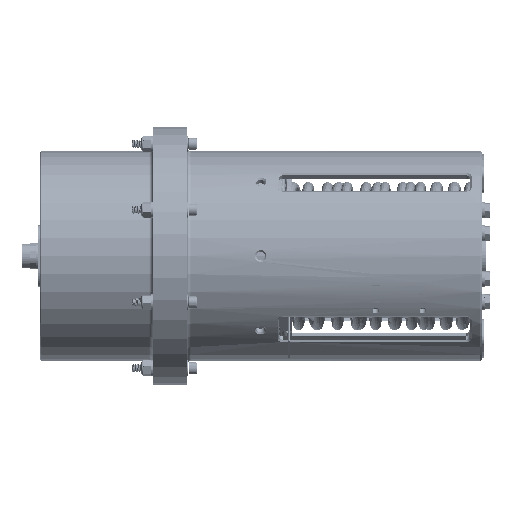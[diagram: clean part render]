
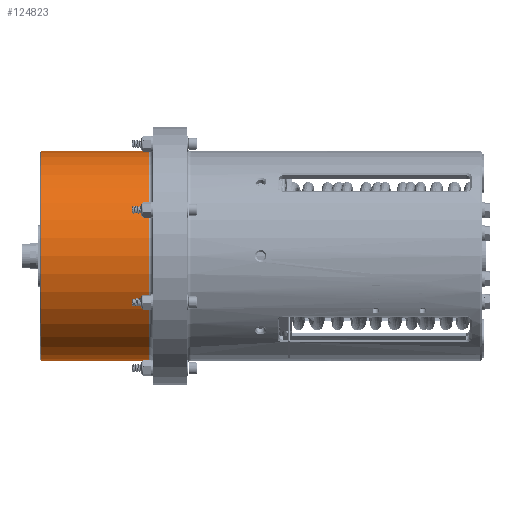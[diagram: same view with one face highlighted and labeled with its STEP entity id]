
A CAD part, left-side view. The second image highlights one B-rep face of the part: STEP entity #124823.
In plain terms, the highlighted cylindrical face has radius 82.55 mm (diameter 165.1 mm), a partial arc.
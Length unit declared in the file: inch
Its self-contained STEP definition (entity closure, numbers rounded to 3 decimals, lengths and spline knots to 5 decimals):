
#4583 = VECTOR ( 'NONE', #139257, 39.37008 ) ;
#12011 = ORIENTED_EDGE ( 'NONE', *, *, #42678, .F. ) ;
#31038 = CARTESIAN_POINT ( 'NONE',  ( 0., -0.07, 0. ) ) ;
#32309 = DIRECTION ( 'NONE',  ( 0., 0., -1. ) ) ;
#34116 = CARTESIAN_POINT ( 'NONE',  ( 0., 0.555, 3.25 ) ) ;
#41671 = CARTESIAN_POINT ( 'NONE',  ( 0., 3.88, -3.25 ) ) ;
#42678 = EDGE_CURVE ( 'NONE', #120448, #80251, #58076, .T. ) ;
#53491 = DIRECTION ( 'NONE',  ( 0., -1., 0. ) ) ;
#58076 = LINE ( 'NONE', #177364, #4583 ) ;
#59200 = ORIENTED_EDGE ( 'NONE', *, *, #103637, .T. ) ;
#71254 = CARTESIAN_POINT ( 'NONE',  ( 0., -0.07, -3.25 ) ) ;
#77533 = CIRCLE ( 'NONE', #81508, 3.25 ) ;
#80251 = VERTEX_POINT ( 'NONE', #34116 ) ;
#81508 = AXIS2_PLACEMENT_3D ( 'NONE', #177715, #116787, #98970 ) ;
#92000 = CYLINDRICAL_SURFACE ( 'NONE', #134191, 3.25 ) ;
#92983 = VERTEX_POINT ( 'NONE', #155170 ) ;
#98970 = DIRECTION ( 'NONE',  ( 0., 0., 1. ) ) ;
#103637 = EDGE_CURVE ( 'NONE', #246156, #92983, #128394, .T. ) ;
#109819 = ORIENTED_EDGE ( 'NONE', *, *, #251097, .T. ) ;
#110676 = EDGE_CURVE ( 'NONE', #120448, #246156, #77533, .T. ) ;
#116787 = DIRECTION ( 'NONE',  ( 0., -1., 0. ) ) ;
#120448 = VERTEX_POINT ( 'NONE', #231269 ) ;
#124823 = ADVANCED_FACE ( 'NONE', ( #186024 ), #92000, .T. ) ;
#128394 = LINE ( 'NONE', #71254, #238755 ) ;
#134191 = AXIS2_PLACEMENT_3D ( 'NONE', #31038, #210115, #32309 ) ;
#139257 = DIRECTION ( 'NONE',  ( 0., -1., 0. ) ) ;
#139337 = CARTESIAN_POINT ( 'NONE',  ( 0., 0.555, 0. ) ) ;
#155170 = CARTESIAN_POINT ( 'NONE',  ( 0., 0.555, -3.25 ) ) ;
#173043 = EDGE_LOOP ( 'NONE', ( #12011, #244413, #59200, #109819 ) ) ;
#177364 = CARTESIAN_POINT ( 'NONE',  ( 0., -0.07, 3.25 ) ) ;
#177715 = CARTESIAN_POINT ( 'NONE',  ( 0., 3.88, 0. ) ) ;
#181193 = DIRECTION ( 'NONE',  ( 0., 0., 1. ) ) ;
#186024 = FACE_OUTER_BOUND ( 'NONE', #173043, .T. ) ;
#194913 = CIRCLE ( 'NONE', #223414, 3.25 ) ;
#210115 = DIRECTION ( 'NONE',  ( 0., -1., 0. ) ) ;
#221825 = DIRECTION ( 'NONE',  ( 0., 1., 0. ) ) ;
#223414 = AXIS2_PLACEMENT_3D ( 'NONE', #139337, #221825, #181193 ) ;
#231269 = CARTESIAN_POINT ( 'NONE',  ( 0., 3.88, 3.25 ) ) ;
#238755 = VECTOR ( 'NONE', #53491, 39.37008 ) ;
#244413 = ORIENTED_EDGE ( 'NONE', *, *, #110676, .T. ) ;
#246156 = VERTEX_POINT ( 'NONE', #41671 ) ;
#251097 = EDGE_CURVE ( 'NONE', #92983, #80251, #194913, .T. ) ;
